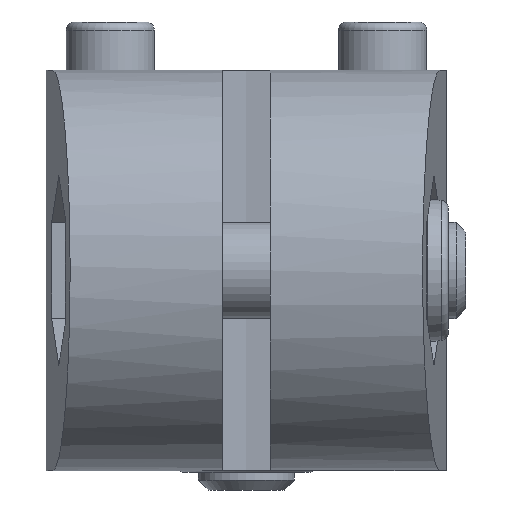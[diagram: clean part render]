
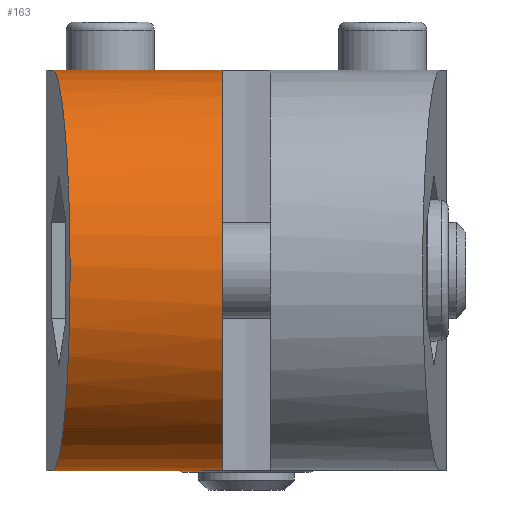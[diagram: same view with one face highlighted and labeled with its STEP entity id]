
A CAD part, front view. The second image highlights one B-rep face of the part: STEP entity #163.
In plain terms, the highlighted cylindrical face has radius 12.5 mm (diameter 25 mm), a partial arc.
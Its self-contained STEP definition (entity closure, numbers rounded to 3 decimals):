
#163 = ADVANCED_FACE( '', ( #429 ), #430, .T. );
#429 = FACE_OUTER_BOUND( '', #781, .T. );
#430 = CYLINDRICAL_SURFACE( '', #782, 12.5 );
#781 = EDGE_LOOP( '', ( #1530, #1531, #1532, #1533 ) );
#782 = AXIS2_PLACEMENT_3D( '', #1534, #1535, #1536 );
#1530 = ORIENTED_EDGE( '', *, *, #2167, .F. );
#1531 = ORIENTED_EDGE( '', *, *, #2168, .F. );
#1532 = ORIENTED_EDGE( '', *, *, #2169, .T. );
#1533 = ORIENTED_EDGE( '', *, *, #2170, .F. );
#1534 = CARTESIAN_POINT( '', ( 12.5, -9.5, 0. ) );
#1535 = DIRECTION( '', ( 1., 0., 0. ) );
#1536 = DIRECTION( '', ( 0., 0., 1. ) );
#2167 = EDGE_CURVE( '', #2613, #2614, #2615, .T. );
#2168 = EDGE_CURVE( '', #2616, #2613, #2617, .F. );
#2169 = EDGE_CURVE( '', #2616, #2618, #2619, .T. );
#2170 = EDGE_CURVE( '', #2614, #2618, #2620, .F. );
#2613 = VERTEX_POINT( '', #3566 );
#2614 = VERTEX_POINT( '', #3567 );
#2615 = LINE( '', #3568, #3569 );
#2616 = VERTEX_POINT( '', #3570 );
#2617 = CIRCLE( '', #3571, 12.5 );
#2618 = VERTEX_POINT( '', #3572 );
#2619 = LINE( '', #3573, #3574 );
#2620 = ELLIPSE( '', #3575, 12.548, 12.5 );
#3566 = CARTESIAN_POINT( '', ( -1.5, -9.5, -12.5 ) );
#3567 = CARTESIAN_POINT( '', ( -12.094, -9.5, -12.5 ) );
#3568 = CARTESIAN_POINT( '', ( 12.5, -9.5, -12.5 ) );
#3569 = VECTOR( '', #4074, 1000. );
#3570 = CARTESIAN_POINT( '', ( -1.5, -9.5, 12.5 ) );
#3571 = AXIS2_PLACEMENT_3D( '', #4075, #4076, #4077 );
#3572 = CARTESIAN_POINT( '', ( -12.094, -9.5, 12.5 ) );
#3573 = CARTESIAN_POINT( '', ( 12.5, -9.5, 12.5 ) );
#3574 = VECTOR( '', #4078, 1000. );
#3575 = AXIS2_PLACEMENT_3D( '', #4079, #4080, #4081 );
#4074 = DIRECTION( '', ( -1., 0., 0. ) );
#4075 = CARTESIAN_POINT( '', ( -1.5, -9.5, 0. ) );
#4076 = DIRECTION( '', ( -1., 0., 0. ) );
#4077 = DIRECTION( '', ( 0., -1., 0. ) );
#4078 = DIRECTION( '', ( -1., 0., 0. ) );
#4079 = CARTESIAN_POINT( '', ( -12.094, -9.5, 0. ) );
#4080 = DIRECTION( '', ( 0.996, 0.087, 0. ) );
#4081 = DIRECTION( '', ( -0.087, 0.996, 0. ) );
